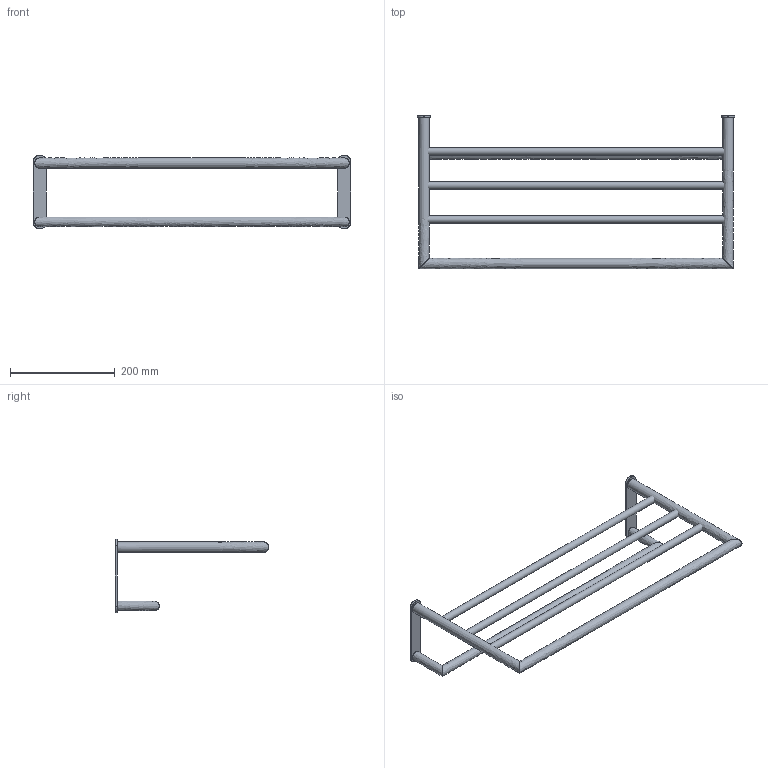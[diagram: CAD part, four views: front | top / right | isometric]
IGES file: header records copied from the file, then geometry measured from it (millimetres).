
Global section: file name: /Users/f/Desktop/II/AM814.igs; native system: Rhinoceros ( Sep  7 2010 ); preprocessor: Trout Lake IGES 012 Sep  7 2010; date: 100922.133120; units: millimetre
Bounding box: 606 x 293 x 140 mm (x, y, z)
Surface area: 208997.3 mm2 (no closed solid volume)
Topology: 0 solids, 0 shells, 43 faces, 1547 edges, 1546 vertices
Faces by surface type: bspline 43
